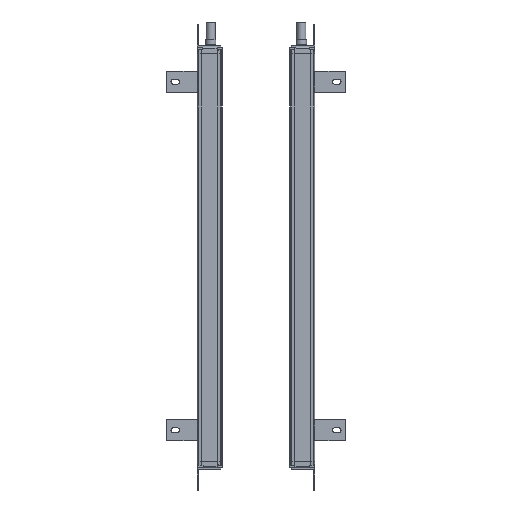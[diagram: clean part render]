
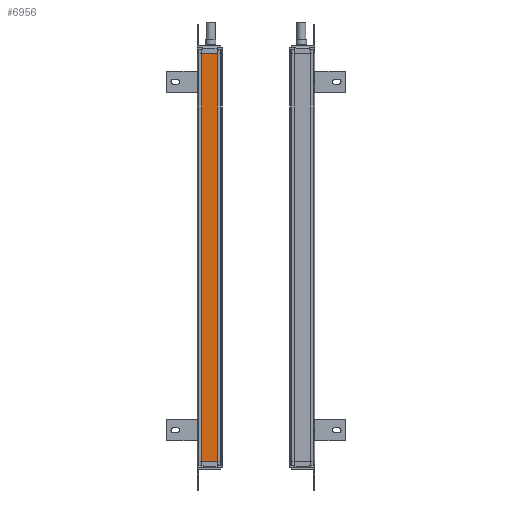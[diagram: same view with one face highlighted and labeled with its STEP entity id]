
A CAD part, left-side view. The second image highlights one B-rep face of the part: STEP entity #6956.
In plain terms, the highlighted planar face has unit normal (-1, 0, 0).
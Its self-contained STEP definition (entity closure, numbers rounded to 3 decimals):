
#953=FACE_OUTER_BOUND('',#9034,.T.);
#2188=LINE('',#33710,#4326);
#2290=LINE('',#34050,#4428);
#2291=LINE('',#34052,#4429);
#2292=LINE('',#34054,#4430);
#4326=VECTOR('',#26897,1.);
#4428=VECTOR('',#27185,1.);
#4429=VECTOR('',#27188,1.);
#4430=VECTOR('',#27189,1.);
#6178=PLANE('',#23723);
#6956=ADVANCED_FACE('',(#953),#6178,.T.);
#9034=EDGE_LOOP('',(#11681,#11682,#11683,#11684));
#11681=ORIENTED_EDGE('',*,*,#19828,.F.);
#11682=ORIENTED_EDGE('',*,*,#19829,.T.);
#11683=ORIENTED_EDGE('',*,*,#19830,.T.);
#11684=ORIENTED_EDGE('',*,*,#19658,.F.);
#17203=VERTEX_POINT('',#33709);
#17204=VERTEX_POINT('',#33711);
#17348=VERTEX_POINT('',#34049);
#17349=VERTEX_POINT('',#34053);
#19658=EDGE_CURVE('',#17203,#17204,#2188,.T.);
#19828=EDGE_CURVE('',#17348,#17203,#2290,.T.);
#19829=EDGE_CURVE('',#17348,#17349,#2291,.T.);
#19830=EDGE_CURVE('',#17349,#17204,#2292,.T.);
#23723=AXIS2_PLACEMENT_3D('',#34055,#27190,#27191);
#26897=DIRECTION('',(0.,-1.,0.));
#27185=DIRECTION('',(0.,0.,1.));
#27188=DIRECTION('',(0.,-1.,0.));
#27189=DIRECTION('',(0.,0.,1.));
#27190=DIRECTION('',(-1.,0.,0.));
#27191=DIRECTION('',(0.,1.,0.));
#33709=CARTESIAN_POINT('',(233.846,104.141,31.645));
#33710=CARTESIAN_POINT('',(233.846,81.141,31.645));
#33711=CARTESIAN_POINT('',(233.846,81.141,31.645));
#34049=CARTESIAN_POINT('',(233.846,104.141,-553.355));
#34050=CARTESIAN_POINT('',(233.846,104.141,-155.355));
#34052=CARTESIAN_POINT('',(233.846,81.141,-553.355));
#34053=CARTESIAN_POINT('',(233.846,81.141,-553.355));
#34054=CARTESIAN_POINT('',(233.846,81.141,-155.355));
#34055=CARTESIAN_POINT('',(233.846,81.141,-50.355));
